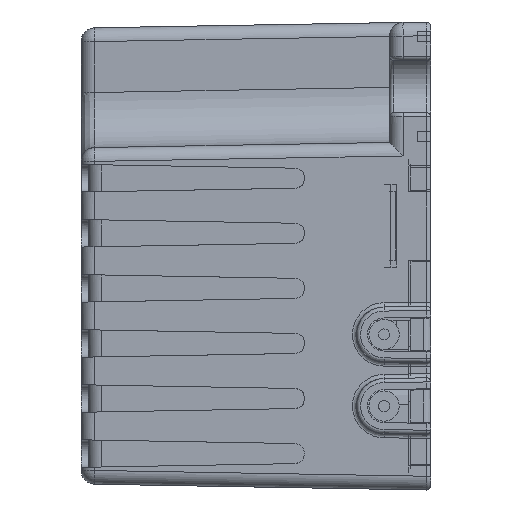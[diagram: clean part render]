
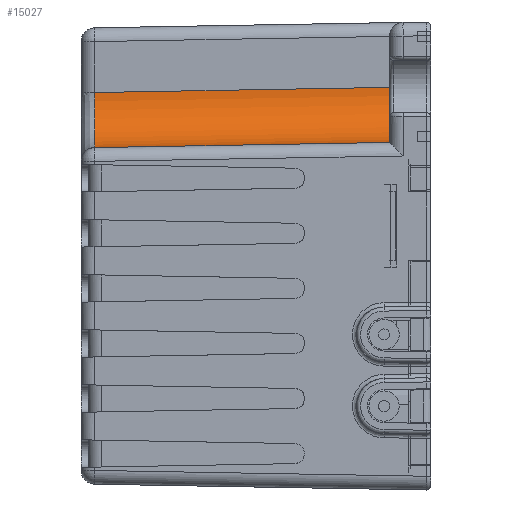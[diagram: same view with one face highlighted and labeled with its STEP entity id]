
A CAD part, left-side view. The second image highlights one B-rep face of the part: STEP entity #15027.
In plain terms, the highlighted cylindrical face has radius 4 mm (diameter 8 mm), a partial arc.
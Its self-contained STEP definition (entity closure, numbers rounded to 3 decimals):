
#438 = CARTESIAN_POINT ( 'NONE',  ( 8.752, 4.753, 3. ) ) ;
#1152 = CARTESIAN_POINT ( 'NONE',  ( 4.699, 4.699, -0.012 ) ) ;
#2246 = CARTESIAN_POINT ( 'NONE',  ( 8.752, 7.096, 3. ) ) ;
#2274 = EDGE_CURVE ( 'NONE', #15156, #12113, #10931, .T. ) ;
#2281 = EDGE_LOOP ( 'NONE', ( #11250, #2407, #15229, #8109 ) ) ;
#2407 = ORIENTED_EDGE ( 'NONE', *, *, #2274, .T. ) ;
#3410 = FACE_OUTER_BOUND ( 'NONE', #2281, .T. ) ;
#3762 = CARTESIAN_POINT ( 'NONE',  ( 5.127, 9.126, 24.417 ) ) ;
#3848 = CARTESIAN_POINT ( 'NONE',  ( 9.126, 5.127, 24.417 ) ) ;
#5619 = VERTEX_POINT ( 'NONE', #8728 ) ;
#5970 = CARTESIAN_POINT ( 'NONE',  ( 8.754, 4.754, 3.07 ) ) ;
#6788 = LINE ( 'NONE', #5970, #16006 ) ;
#6940 = VERTEX_POINT ( 'NONE', #438 ) ;
#8109 = ORIENTED_EDGE ( 'NONE', *, *, #16816, .F. ) ;
#8477 = CARTESIAN_POINT ( 'NONE',  ( 9.126, 7.47, 24.428 ) ) ;
#8728 = CARTESIAN_POINT ( 'NONE',  ( 4.753, 8.752, 3. ) ) ;
#8814 = EDGE_CURVE ( 'NONE', #15156, #6940, #6788, .T. ) ;
#9414 = CARTESIAN_POINT ( 'NONE',  ( 5.145, 9.145, 25.47 ) ) ;
#10931 =( BOUNDED_CURVE ( )  B_SPLINE_CURVE ( 3, ( #19469, #8477, #19598, #3762 ),
 .UNSPECIFIED., .F., .F. ) 
 B_SPLINE_CURVE_WITH_KNOTS ( ( 4, 4 ),
 ( 2.356, 3.927 ),
 .UNSPECIFIED. ) 
 CURVE ( )  GEOMETRIC_REPRESENTATION_ITEM ( )  RATIONAL_B_SPLINE_CURVE ( ( 1., 0.805, 0.805, 1. ) ) 
 REPRESENTATION_ITEM ( '' )  );
#11250 = ORIENTED_EDGE ( 'NONE', *, *, #8814, .F. ) ;
#11873 = AXIS2_PLACEMENT_3D ( 'NONE', #1152, #18632, #13930 ) ;
#12113 = VERTEX_POINT ( 'NONE', #14931 ) ;
#12393 = DIRECTION ( 'NONE',  ( -0.017, -0.017, -1. ) ) ;
#12563 = DIRECTION ( 'NONE',  ( 0.017, 0.017, 1. ) ) ;
#13319 = CARTESIAN_POINT ( 'NONE',  ( 7.096, 8.752, 3. ) ) ;
#13930 = DIRECTION ( 'NONE',  ( -1., 0., 0.017 ) ) ;
#14931 = CARTESIAN_POINT ( 'NONE',  ( 5.127, 9.126, 24.417 ) ) ;
#15027 = ADVANCED_FACE ( 'NONE', ( #3410 ), #15090, .F. ) ;
#15053 = CARTESIAN_POINT ( 'NONE',  ( 8.752, 4.753, 3. ) ) ;
#15090 = CYLINDRICAL_SURFACE ( 'NONE', #11873, 4. ) ;
#15156 = VERTEX_POINT ( 'NONE', #3848 ) ;
#15229 = ORIENTED_EDGE ( 'NONE', *, *, #17000, .F. ) ;
#16006 = VECTOR ( 'NONE', #12393, 1000. ) ;
#16816 = EDGE_CURVE ( 'NONE', #6940, #5619, #19737, .T. ) ;
#17000 = EDGE_CURVE ( 'NONE', #5619, #12113, #18492, .T. ) ;
#18239 = VECTOR ( 'NONE', #12563, 1000. ) ;
#18492 = LINE ( 'NONE', #9414, #18239 ) ;
#18632 = DIRECTION ( 'NONE',  ( -0.017, -0.017, -1. ) ) ;
#19469 = CARTESIAN_POINT ( 'NONE',  ( 9.126, 5.127, 24.417 ) ) ;
#19598 = CARTESIAN_POINT ( 'NONE',  ( 7.47, 9.126, 24.428 ) ) ;
#19694 = CARTESIAN_POINT ( 'NONE',  ( 4.753, 8.752, 3. ) ) ;
#19737 =( BOUNDED_CURVE ( )  B_SPLINE_CURVE ( 3, ( #15053, #2246, #13319, #19694 ),
 .UNSPECIFIED., .F., .T. ) 
 B_SPLINE_CURVE_WITH_KNOTS ( ( 4, 4 ),
 ( 2.356, 3.927 ),
 .UNSPECIFIED. ) 
 CURVE ( )  GEOMETRIC_REPRESENTATION_ITEM ( )  RATIONAL_B_SPLINE_CURVE ( ( 1., 0.805, 0.805, 1. ) ) 
 REPRESENTATION_ITEM ( '' )  );
